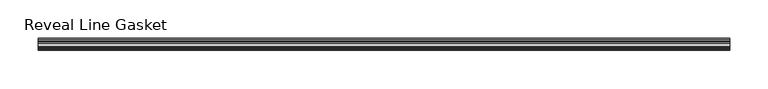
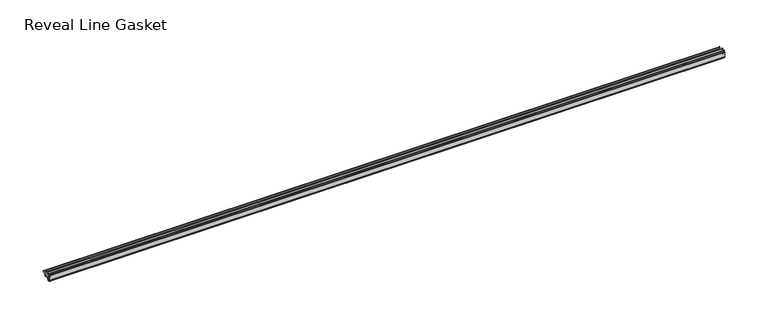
"""IFC4 building model written with IfcOpenShell, lengths in millimetres: proxy geometry, Accessories-Teknion-FHGR-AI_Healthcare-Reveal_Line_Gasket(Horizontal)-R2022 : Reveal Line Gasket."""

import ifcopenshell
import ifcopenshell.guid

model = None  # the IFC model being written
_history = None  # IfcOwnerHistory: only IFC2X3 demands one
_inside = {}  # id of a spatial element -> (the spatial element, [elements in it])
_under = {}  # id of a project, library or spatial element -> (it, [spatial elements below it])
_declared = {}  # id of a project -> (the project, [libraries it declares])
_typed = {}  # id of a type object -> (the type object, [elements of that type])
_made_of = {}  # id of a material, layer set ... -> (it, [elements and type objects made of it])


def new_model(schema):
    """Start an empty IFC model of exactly this schema.

    Asked for "IFC4X3", IfcOpenShell would pick the latest addendum, in which some entities
    have other attributes; the version numbers below select the first issue.
    IFC2X3 requires an IfcOwnerHistory on every rooted entity: one is made here for all.
    """
    global model, _history
    if schema == "IFC4X3":
        model = ifcopenshell.file(schema_version=(4, 3, 0, 0))
    else:
        model = ifcopenshell.file(schema=schema)
    _inside.clear()
    _under.clear()
    _declared.clear()
    _typed.clear()
    _made_of.clear()
    _history = None
    if model.schema == "IFC2X3":
        org = make("IfcOrganization", Name="unknown")
        user = make(
            "IfcPersonAndOrganization",
            ThePerson=make("IfcPerson", FamilyName="unknown"),
            TheOrganization=org,
        )
        app = make(
            "IfcApplication",
            ApplicationDeveloper=org,
            Version="unknown",
            ApplicationFullName="unknown",
            ApplicationIdentifier="unknown",
        )
        _history = make(
            "IfcOwnerHistory",
            OwningUser=user,
            OwningApplication=app,
            ChangeAction="ADDED",
            CreationDate=0,
        )
    return model


def make(cls, **values):
    """One entity of the class cls with the attributes given. An attribute that is None is left unset."""
    return model.create_entity(
        cls, **{name: value for name, value in values.items() if value is not None}
    )


def rooted(cls, **values):
    """An entity with a GlobalId (a new one), such as an element, a storey or a relation."""
    return make(cls, GlobalId=ifcopenshell.guid.new(), OwnerHistory=_history, **values)


def si_unit(unit_type, name, prefix=None):
    """IfcSIUnit, for example si_unit("LENGTHUNIT", "METRE", prefix="MILLI")."""
    return make("IfcSIUnit", UnitType=unit_type, Prefix=prefix, Name=name)


def assignment(units):
    """IfcUnitAssignment: the units of a project."""
    return None if units is None else make("IfcUnitAssignment", Units=units)


def point(xyz):
    """IfcCartesianPoint."""
    return None if xyz is None else make("IfcCartesianPoint", Coordinates=xyz)


def direction(xyz):
    """IfcDirection."""
    return None if xyz is None else make("IfcDirection", DirectionRatios=xyz)


def frame(location, z_axis=None, x_axis=None):
    """IfcAxis2Placement3D, a coordinate frame: its origin and axes. An axis left out is left unset."""
    return make(
        "IfcAxis2Placement3D",
        Location=point(location),
        Axis=direction(z_axis),
        RefDirection=direction(x_axis),
    )


def frame_2d(location, x_axis=None):
    """IfcAxis2Placement2D, a coordinate frame in the plane: its origin and x axis."""
    return make(
        "IfcAxis2Placement2D", Location=point(location), RefDirection=direction(x_axis)
    )


def origin():
    """The frame at (0, 0, 0) with its axes left unset."""
    return frame((0.0, 0.0, 0.0))


def place(relative_to, where):
    """IfcLocalPlacement: puts the frame where relative to a parent placement (None: the world)."""
    return make(
        "IfcLocalPlacement", PlacementRelTo=relative_to, RelativePlacement=where
    )


def context(
    kind, dimensions, precision=None, world=None, true_north=None, identifier=None
):
    """IfcGeometricRepresentationContext, for example the 3D "Model" context."""
    return make(
        "IfcGeometricRepresentationContext",
        ContextIdentifier=identifier,
        ContextType=kind,
        CoordinateSpaceDimension=dimensions,
        Precision=precision,
        WorldCoordinateSystem=world,
        TrueNorth=true_north,
    )


def project(units=None, contexts=None):
    """IfcProject with its units and contexts."""
    return rooted(
        "IfcProject",
        Name="project",
        RepresentationContexts=contexts,
        UnitsInContext=assignment(units),
    )


def spatial(cls, under=None, at=None, **own):
    """A site, building, storey or space (cls), placed at a placement, below another one or the project."""
    s = rooted(cls, ObjectPlacement=at, **own)
    if under is not None:
        _under.setdefault(under.id(), (under, []))[1].append(s)
    return s


def polyline(points):
    """IfcPolyline through the points."""
    return make("IfcPolyline", Points=[point(p) for p in points])


def circle_curve(where, radius):
    """IfcCircle in the frame where."""
    return make("IfcCircle", Position=where, Radius=radius)


def trimmed(basis, trim1, trim2, sense, master):
    """IfcTrimmedCurve: the piece of a basis curve between two trims."""
    return make(
        "IfcTrimmedCurve",
        BasisCurve=basis,
        Trim1=trim1,
        Trim2=trim2,
        SenseAgreement=sense,
        MasterRepresentation=master,
    )


def segment(curve, same_sense, transition):
    """IfcCompositeCurveSegment."""
    return make(
        "IfcCompositeCurveSegment",
        Transition=transition,
        SameSense=same_sense,
        ParentCurve=curve,
    )


def composite_curve(segments, self_intersect=None):
    """IfcCompositeCurve: segments joined end to end."""
    return make("IfcCompositeCurve", Segments=segments, SelfIntersect=self_intersect)


def outline(outer, holes=None, kind="AREA"):
    """IfcArbitraryClosedProfileDef: a profile drawn as a closed curve; with holes, ...WithVoids."""
    if holes is None:
        return make("IfcArbitraryClosedProfileDef", ProfileType=kind, OuterCurve=outer)
    return make(
        "IfcArbitraryProfileDefWithVoids",
        ProfileType=kind,
        OuterCurve=outer,
        InnerCurves=holes,
    )


def extrude(swept, where, along, depth):
    """IfcExtrudedAreaSolid: the profile swept, set in the frame where, extruded along a direction by depth."""
    return make(
        "IfcExtrudedAreaSolid",
        SweptArea=swept,
        Position=where,
        ExtrudedDirection=direction(along),
        Depth=depth,
    )


def shape(context_of_items, identifier, shape_type, items):
    """IfcShapeRepresentation: the items that make up one representation, for example the "Body"."""
    return make(
        "IfcShapeRepresentation",
        ContextOfItems=context_of_items,
        RepresentationIdentifier=identifier,
        RepresentationType=shape_type,
        Items=items,
    )


def source(mapping_origin, context_of_items, identifier, shape_type, items):
    """IfcRepresentationMap: a shape defined once, which mapped items show again and again."""
    return make(
        "IfcRepresentationMap",
        MappingOrigin=mapping_origin,
        MappedRepresentation=shape(context_of_items, identifier, shape_type, items),
    )


def transform(
    local_origin,
    x_axis=None,
    y_axis=None,
    z_axis=None,
    scale=None,
    scale2=None,
    scale3=None,
    uniform=True,
):
    """IfcCartesianTransformationOperator3D, or its non-uniform kind. x_axis, y_axis, z_axis: its Axis1, 2, 3."""
    if uniform:
        return make(
            "IfcCartesianTransformationOperator3D",
            Axis1=direction(x_axis),
            Axis2=direction(y_axis),
            LocalOrigin=point(local_origin),
            Scale=scale,
            Axis3=direction(z_axis),
        )
    return make(
        "IfcCartesianTransformationOperator3DnonUniform",
        Axis1=direction(x_axis),
        Axis2=direction(y_axis),
        LocalOrigin=point(local_origin),
        Scale=scale,
        Axis3=direction(z_axis),
        Scale2=scale2,
        Scale3=scale3,
    )


def mapped(mapping_source, mapping_target):
    """IfcMappedItem: shows the shape of a source again, moved by a transform."""
    return make(
        "IfcMappedItem", MappingSource=mapping_source, MappingTarget=mapping_target
    )


def made_of(thing, what):
    """Note that an element or type object is made of a material, layer set ...; save() writes the relation."""
    if what is not None:
        _made_of.setdefault(what.id(), (what, []))[1].append(thing)
    return thing


def element(
    cls,
    number,
    at=None,
    inside=None,
    cuts=None,
    type_object=None,
    material=None,
    context=None,
    identifier="Body",
    shape_type=None,
    held_by="IfcProductDefinitionShape",
    body=None,
    shapes=None,
    **own,
):
    """One element of the class cls, such as IfcWall. Its Tag is "e" and its number.

    at: its placement. inside: the storey or other place that contains it. cuts: it is an
    opening in that element (IfcRelVoidsElement). A single representation is given by context,
    identifier, shape_type and body (its items); several are given by shapes. held_by: the class
    of the entity that holds the representations. save() writes the other relations.
    """
    e = rooted(cls, Tag="e%d" % number, ObjectPlacement=at, **own)
    if body is not None:
        shapes = [shape(context, identifier, shape_type, body)]
    if shapes is not None:
        e.Representation = make(held_by, Representations=shapes)
    if inside is not None:
        _inside.setdefault(inside.id(), (inside, []))[1].append(e)
    if cuts is not None:
        rooted(
            "IfcRelVoidsElement", RelatingBuildingElement=cuts, RelatedOpeningElement=e
        )
    if type_object is not None:
        _typed.setdefault(type_object.id(), (type_object, []))[1].append(e)
    return made_of(e, material)


def aggregate(whole, parts):
    """IfcRelAggregates: a whole, such as a stair, and the parts it consists of."""
    return rooted("IfcRelAggregates", RelatingObject=whole, RelatedObjects=parts)


def save(model, path):
    """Write the relations noted so far, then the file.

    IfcRelAggregates (storeys below a building ...), IfcRelContainedInSpatialStructure (elements
    in a storey), IfcRelDefinesByType, IfcRelAssociatesMaterial and IfcRelDeclares: one each for
    every whole, place, type object, material and project.
    """
    for whole, parts in _under.values():
        aggregate(whole, parts)
    for where, things in _inside.values():
        rooted(
            "IfcRelContainedInSpatialStructure",
            RelatedElements=things,
            RelatingStructure=where,
        )
    for kind, things in _typed.values():
        rooted("IfcRelDefinesByType", RelatedObjects=things, RelatingType=kind)
    for what, things in _made_of.values():
        rooted("IfcRelAssociatesMaterial", RelatedObjects=things, RelatingMaterial=what)
    for by, libraries in _declared.values():
        rooted("IfcRelDeclares", RelatingContext=by, RelatedDefinitions=libraries)
    model.write(path)


def reveal_line_gasket_2db8b002(model_context):
    return source(origin(), model_context, "Body", "SweptSolid", [
        extrude(outline(composite_curve([segment(polyline([(-7.6326998, 1603.2), (-7.4091917, 1604.1554927), (-6.8813059, 1605.0884684)]), True, "CONTINUOUS"), segment(trimmed(circle_curve(frame_2d((-6.5243141, 1604.8864793)), 0.4101739), [point((-6.8813059, 1605.0884684))], [point((-6.1246704, 1604.7941347))], False, "CARTESIAN"), True, "CONTINUOUS"), segment(polyline([(-6.1246704, 1604.7941347), (-6.3626997, 1603.0979086), (-6.3626997, 1601.0654527)]), True, "CONTINUOUS"), segment(trimmed(circle_curve(frame_2d((-5.6959605, 1601.4819258)), 0.786124), [point((-6.3626997, 1601.0654527))], [point((-5.0926996, 1600.977875))], True, "CARTESIAN"), True, "CONTINUOUS"), segment(polyline([(-5.0926996, 1600.977875), (-0.7492996, 1600.977875), (-3.7293824, 1606.1395295)]), True, "CONTINUOUS"), segment(trimmed(circle_curve(frame_2d((-3.3132479, 1606.2049761)), 0.4212495), [point((-3.7293824, 1606.1395295))], [point((-3.0485022, 1606.5326358))], False, "CARTESIAN"), True, "CONTINUOUS"), segment(polyline([(-3.0485022, 1606.5326358), (0.5742594, 1600.977875), (4.8262978, 1600.977875), (3.1660374, 1603.8535297)]), True, "CONTINUOUS"), segment(trimmed(circle_curve(frame_2d((3.5978728, 1603.9118855)), 0.4357605), [point((3.1660374, 1603.8535297))], [point((3.864328, 1604.2566881))], False, "CARTESIAN"), True, "CONTINUOUS"), segment(polyline([(3.864328, 1604.2566881), (6.1944059, 1600.977875), (7.6326998, 1600.977875), (7.6326998, 1599.422125), (6.1944059, 1599.422125), (3.864328, 1596.1433119)]), True, "CONTINUOUS"), segment(trimmed(circle_curve(frame_2d((3.5978728, 1596.4881145)), 0.4357605), [point((3.864328, 1596.1433119))], [point((3.1660374, 1596.5464703))], False, "CARTESIAN"), True, "CONTINUOUS"), segment(polyline([(3.1660374, 1596.5464703), (4.8262978, 1599.422125), (0.5742594, 1599.422125), (-3.0485022, 1593.8673642)]), True, "CONTINUOUS"), segment(trimmed(circle_curve(frame_2d((-3.3132479, 1594.1950239)), 0.4212495), [point((-3.0485022, 1593.8673642))], [point((-3.7293824, 1594.2604705))], False, "CARTESIAN"), True, "CONTINUOUS"), segment(polyline([(-3.7293824, 1594.2604705), (-0.7492996, 1599.422125), (-5.0926996, 1599.422125)]), True, "CONTINUOUS"), segment(trimmed(circle_curve(frame_2d((-5.6959605, 1598.9180742)), 0.786124), [point((-5.0926996, 1599.422125))], [point((-6.3626997, 1599.3345473))], True, "CARTESIAN"), True, "CONTINUOUS"), segment(polyline([(-6.3626997, 1599.3345473), (-6.3626997, 1597.3020914), (-6.1246704, 1595.6058653)]), True, "CONTINUOUS"), segment(trimmed(circle_curve(frame_2d((-6.5243141, 1595.5135207)), 0.4101739), [point((-6.1246704, 1595.6058653))], [point((-6.8813059, 1595.3115316))], False, "CARTESIAN"), True, "CONTINUOUS"), segment(polyline([(-6.8813059, 1595.3115316), (-7.4091917, 1596.2445073), (-7.6326998, 1597.2), (-7.6326998, 1603.2)]), True, "CONTINUOUS")], self_intersect=False)), frame((-448.9704, 0.0, 0.0), z_axis=(1.0, 0.0, 0.0), x_axis=(0.0, 1.0, 0.0)), (0.0, 0.0, 1.0), 897.9408),
    ])


if __name__ == "__main__":
    model = new_model("IFC4")
    model_context = context("Model", 3, world=origin())
    ifc_project = project(units=[si_unit("LENGTHUNIT", "METRE", prefix="MILLI")], contexts=[model_context])
    site = spatial("IfcSite", under=ifc_project)
    building = spatial("IfcBuilding", under=site)
    placement = place(None, origin())
    reveal_line_gasket_shape = reveal_line_gasket_2db8b002(model_context)
    element("IfcBuildingElementProxy", 1, Name="Accessories-Teknion-FHGR-AI_Healthcare-Reveal_Line_Gasket(Horizontal)-R2022 : Reveal Line Gasket", ObjectType="Accessories-Teknion-FHGR-AI_Healthcare-Reveal_Line_Gasket(Horizontal)-R2022 : Reveal Line Gasket", at=placement, inside=building, context=model_context, shape_type="MappedRepresentation", body=[
        mapped(reveal_line_gasket_shape, transform((0.0, 0.0, 0.0), x_axis=(1.0, 0.0, 0.0), y_axis=(0.0, 1.0, 0.0), z_axis=(0.0, 0.0, 1.0))),
    ])
    save(model, "model.ifc")
